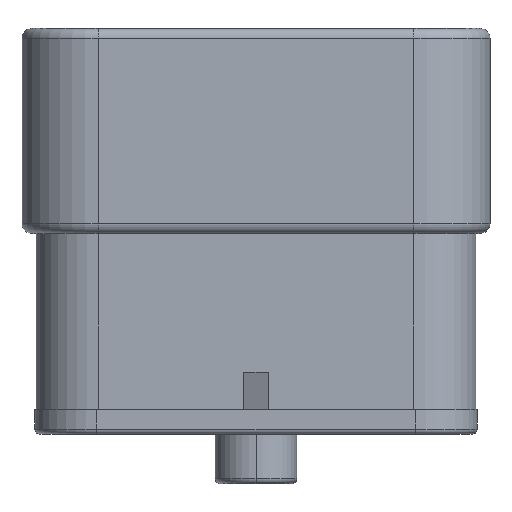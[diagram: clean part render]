
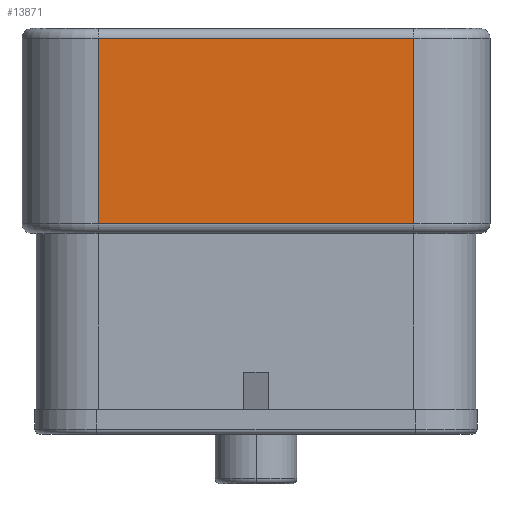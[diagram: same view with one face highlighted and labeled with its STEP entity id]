
A CAD part, left-side view. The second image highlights one B-rep face of the part: STEP entity #13871.
In plain terms, the highlighted planar face has unit normal (-1, 0, 0).
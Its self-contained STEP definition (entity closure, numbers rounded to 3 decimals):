
#245=DIRECTION('',(0.,-1.,0.));
#246=VECTOR('',#245,32.461);
#247=CARTESIAN_POINT('',(-24.689,16.231,-1.016));
#248=LINE('',#247,#246);
#249=DIRECTION('',(0.,1.,0.));
#250=VECTOR('',#249,32.461);
#251=CARTESIAN_POINT('',(-24.689,-16.231,-20.066));
#252=LINE('',#251,#250);
#253=DIRECTION('',(0.,0.,-1.));
#254=VECTOR('',#253,19.05);
#255=CARTESIAN_POINT('',(-24.689,16.231,-1.016));
#256=LINE('',#255,#254);
#267=DIRECTION('',(0.,0.,-1.));
#268=VECTOR('',#267,19.05);
#269=CARTESIAN_POINT('',(-24.689,-16.231,-1.016));
#270=LINE('',#269,#268);
#10947=CARTESIAN_POINT('',(-24.689,16.231,-1.016));
#10948=CARTESIAN_POINT('',(-24.689,-16.231,-1.016));
#10949=VERTEX_POINT('',#10947);
#10950=VERTEX_POINT('',#10948);
#10975=CARTESIAN_POINT('',(-24.689,16.231,-20.066));
#10976=VERTEX_POINT('',#10975);
#10977=CARTESIAN_POINT('',(-24.689,-16.231,-20.066));
#10978=VERTEX_POINT('',#10977);
#13857=CARTESIAN_POINT('',(-24.689,16.231,0.));
#13858=DIRECTION('',(-1.,0.,0.));
#13859=DIRECTION('',(0.,-1.,0.));
#13860=AXIS2_PLACEMENT_3D('',#13857,#13858,#13859);
#13861=PLANE('',#13860);
#13862=ORIENTED_EDGE('',*,*,#13851,.T.);
#13864=ORIENTED_EDGE('',*,*,#13863,.T.);
#13866=ORIENTED_EDGE('',*,*,#13865,.T.);
#13868=ORIENTED_EDGE('',*,*,#13867,.F.);
#13869=EDGE_LOOP('',(#13862,#13864,#13866,#13868));
#13870=FACE_OUTER_BOUND('',#13869,.F.);
#13871=ADVANCED_FACE('',(#13870),#13861,.T.);
#13851=EDGE_CURVE('',#10949,#10950,#248,.T.);
#13863=EDGE_CURVE('',#10950,#10978,#270,.T.);
#13865=EDGE_CURVE('',#10978,#10976,#252,.T.);
#13867=EDGE_CURVE('',#10949,#10976,#256,.T.);
